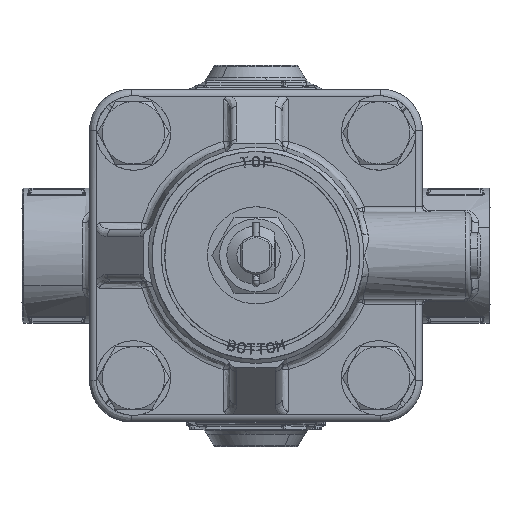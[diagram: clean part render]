
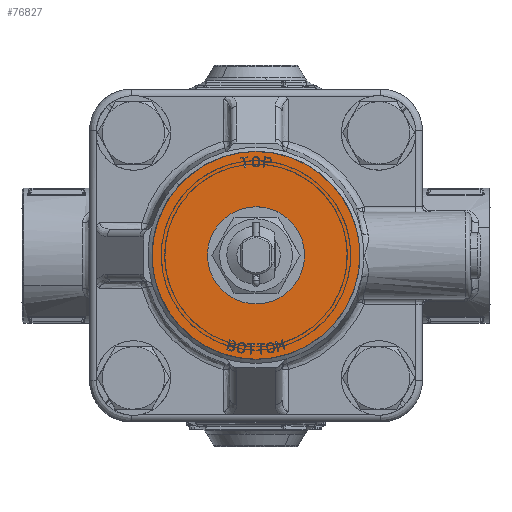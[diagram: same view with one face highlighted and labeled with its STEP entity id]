
A CAD part, top view. The second image highlights one B-rep face of the part: STEP entity #76827.
In plain terms, the highlighted free-form (B-spline) face has degree [1, 1] with [2, 2] control points.
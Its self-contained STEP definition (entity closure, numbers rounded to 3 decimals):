
#76508=CARTESIAN_POINT('',(-20.268,22.118,28.2));
#76509=VERTEX_POINT('',#76508);
#76515=CARTESIAN_POINT('',(0.,30.,28.2));
#76516=VERTEX_POINT('',#76515);
#76517=CARTESIAN_POINT('',(0.,30.,28.2));
#76518=CARTESIAN_POINT('',(-2.086,30.,28.2));
#76519=CARTESIAN_POINT('',(-5.679,29.624,28.2));
#76520=CARTESIAN_POINT('',(-10.812,28.126,28.2));
#76521=CARTESIAN_POINT('',(-15.639,25.816,28.2));
#76522=CARTESIAN_POINT('',(-18.73,23.528,28.2));
#76523=CARTESIAN_POINT('',(-20.268,22.118,28.2));
#76524=B_SPLINE_CURVE_WITH_KNOTS('',3,(#76517,#76518,#76519,#76520,#76521,#76522,#76523),.UNSPECIFIED.,.F.,.U.,(4,1,1,1,4),(0.,6.259,10.779,15.994,22.253),.UNSPECIFIED.);
#76525=EDGE_CURVE('',#76516,#76509,#76524,.T.);
#76527=CARTESIAN_POINT('',(30.,0.,28.2));
#76528=VERTEX_POINT('',#76527);
#76529=CARTESIAN_POINT('',(30.,0.,28.2));
#76530=CARTESIAN_POINT('',(30.,1.411,28.2));
#76531=CARTESIAN_POINT('',(29.796,4.295,28.2));
#76532=CARTESIAN_POINT('',(28.944,8.202,28.2));
#76533=CARTESIAN_POINT('',(27.64,11.848,28.2));
#76534=CARTESIAN_POINT('',(25.689,15.753,28.2));
#76535=CARTESIAN_POINT('',(23.269,19.101,28.2));
#76536=CARTESIAN_POINT('',(20.115,22.373,28.2));
#76537=CARTESIAN_POINT('',(16.99,24.875,28.2));
#76538=CARTESIAN_POINT('',(12.769,27.283,28.2));
#76539=CARTESIAN_POINT('',(8.795,28.788,28.2));
#76540=CARTESIAN_POINT('',(4.418,29.771,28.2));
#76541=CARTESIAN_POINT('',(1.657,30.,28.2));
#76542=CARTESIAN_POINT('',(0.,30.,28.2));
#76543=B_SPLINE_CURVE_WITH_KNOTS('',3,(#76529,#76530,#76531,#76532,#76533,#76534,#76535,#76536,#76537,#76538,#76539,#76540,#76541,#76542),.UNSPECIFIED.,.F.,.U.,(4,1,1,1,1,1,1,1,1,1,1,4),(0.,4.234,8.652,11.965,15.831,21.721,24.298,29.452,33.686,38.84,42.154,47.124),.UNSPECIFIED.);
#76544=EDGE_CURVE('',#76528,#76516,#76543,.T.);
#76546=CARTESIAN_POINT('',(20.268,-22.118,28.2));
#76547=VERTEX_POINT('',#76546);
#76548=CARTESIAN_POINT('',(20.268,-22.118,28.2));
#76549=CARTESIAN_POINT('',(24.919,-17.856,28.2));
#76550=CARTESIAN_POINT('',(27.459,-12.082,28.2));
#76551=CARTESIAN_POINT('',(30.,-6.308,28.2));
#76552=CARTESIAN_POINT('',(30.,0.,28.2));
#76560=(BOUNDED_CURVE()B_SPLINE_CURVE(2,(#76548,#76549,#76550,#76551,#76552),.UNSPECIFIED.,.F.,.U.)B_SPLINE_CURVE_WITH_KNOTS((3,2,3),(0.,0.5,1.),.UNSPECIFIED.)CURVE()GEOMETRIC_REPRESENTATION_ITEM()RATIONAL_B_SPLINE_CURVE((1.,0.979,1.,0.979,1.))REPRESENTATION_ITEM(''));
#76561=EDGE_CURVE('',#76547,#76528,#76560,.T.);
#76662=CARTESIAN_POINT('',(0.,-30.,28.2));
#76663=VERTEX_POINT('',#76662);
#76664=CARTESIAN_POINT('',(0.,-30.,28.2));
#76665=CARTESIAN_POINT('',(2.086,-30.,28.2));
#76666=CARTESIAN_POINT('',(5.853,-29.605,28.2));
#76667=CARTESIAN_POINT('',(11.366,-27.945,28.2));
#76668=CARTESIAN_POINT('',(16.129,-25.494,28.2));
#76669=CARTESIAN_POINT('',(19.029,-23.254,28.2));
#76670=CARTESIAN_POINT('',(20.268,-22.118,28.2));
#76671=B_SPLINE_CURVE_WITH_KNOTS('',3,(#76664,#76665,#76666,#76667,#76668,#76669,#76670),.UNSPECIFIED.,.F.,.U.,(4,1,1,1,4),(0.,6.259,11.3,17.211,22.253),.UNSPECIFIED.);
#76672=EDGE_CURVE('',#76663,#76547,#76671,.T.);
#76674=CARTESIAN_POINT('',(-30.,0.,28.2));
#76675=VERTEX_POINT('',#76674);
#76676=CARTESIAN_POINT('',(-30.,0.,28.2));
#76677=CARTESIAN_POINT('',(-30.,-12.426,28.2));
#76678=CARTESIAN_POINT('',(-21.213,-21.213,28.2));
#76679=CARTESIAN_POINT('',(-12.426,-30.,28.2));
#76680=CARTESIAN_POINT('',(0.,-30.,28.2));
#76688=(BOUNDED_CURVE()B_SPLINE_CURVE(2,(#76676,#76677,#76678,#76679,#76680),.UNSPECIFIED.,.F.,.U.)B_SPLINE_CURVE_WITH_KNOTS((3,2,3),(0.,0.5,1.),.UNSPECIFIED.)CURVE()GEOMETRIC_REPRESENTATION_ITEM()RATIONAL_B_SPLINE_CURVE((1.,0.924,1.,0.924,1.))REPRESENTATION_ITEM(''));
#76689=EDGE_CURVE('',#76675,#76663,#76688,.T.);
#76691=CARTESIAN_POINT('',(-20.268,22.118,28.2));
#76692=CARTESIAN_POINT('',(-21.844,20.675,28.2));
#76693=CARTESIAN_POINT('',(-24.556,17.595,28.2));
#76694=CARTESIAN_POINT('',(-27.199,12.959,28.2));
#76695=CARTESIAN_POINT('',(-28.659,9.072,28.2));
#76696=CARTESIAN_POINT('',(-29.7,4.987,28.2));
#76697=CARTESIAN_POINT('',(-30.,2.008,28.2));
#76698=CARTESIAN_POINT('',(-30.,0.,28.2));
#76699=B_SPLINE_CURVE_WITH_KNOTS('',3,(#76691,#76692,#76693,#76694,#76695,#76696,#76697,#76698),.UNSPECIFIED.,.F.,.U.,(4,1,1,1,1,4),(0.,6.412,12.241,15.933,18.848,24.871),.UNSPECIFIED.);
#76700=EDGE_CURVE('',#76509,#76675,#76699,.T.);
#76767=CARTESIAN_POINT('',(32.997,-32.997,28.2));
#76768=CARTESIAN_POINT('',(-32.997,-32.997,28.2));
#76769=CARTESIAN_POINT('',(32.997,32.997,28.2));
#76770=CARTESIAN_POINT('',(-32.997,32.997,28.2));
#76771=B_SPLINE_SURFACE_WITH_KNOTS('',1,1,((#76767,#76769),(#76768,#76770)),.UNSPECIFIED.,.F.,.F.,.U.,(2,2),(2,2),(0.,65.994),(0.,65.994),.UNSPECIFIED.);
#76772=ORIENTED_EDGE('',*,*,#76689,.T.);
#76773=ORIENTED_EDGE('',*,*,#76672,.T.);
#76774=ORIENTED_EDGE('',*,*,#76561,.T.);
#76775=ORIENTED_EDGE('',*,*,#76544,.T.);
#76776=ORIENTED_EDGE('',*,*,#76525,.T.);
#76777=ORIENTED_EDGE('',*,*,#76700,.T.);
#76778=EDGE_LOOP('',(#76772,#76773,#76774,#76775,#76776,#76777));
#76779=FACE_OUTER_BOUND('',#76778,.T.);
#76780=CARTESIAN_POINT('',(-4.989,-5.6,28.2));
#76781=VERTEX_POINT('',#76780);
#76782=CARTESIAN_POINT('',(4.989,-5.6,28.2));
#76783=VERTEX_POINT('',#76782);
#76784=CARTESIAN_POINT('',(-4.989,-5.6,28.2));
#76785=CARTESIAN_POINT('',(4.989,-5.6,28.2));
#76786=QUASI_UNIFORM_CURVE('',1,(#76784,#76785),.UNSPECIFIED.,.F.,.U.);
#76787=EDGE_CURVE('',#76781,#76783,#76786,.T.);
#76788=ORIENTED_EDGE('',*,*,#76787,.F.);
#76789=CARTESIAN_POINT('',(0.,7.5,28.2));
#76790=VERTEX_POINT('',#76789);
#76791=CARTESIAN_POINT('',(0.,7.5,28.2));
#76792=CARTESIAN_POINT('',(-0.519,7.5,28.2));
#76793=CARTESIAN_POINT('',(-1.461,7.402,28.2));
#76794=CARTESIAN_POINT('',(-2.775,7.006,28.2));
#76795=CARTESIAN_POINT('',(-4.088,6.353,28.2));
#76796=CARTESIAN_POINT('',(-5.318,5.38,28.2));
#76797=CARTESIAN_POINT('',(-6.414,4.011,28.2));
#76798=CARTESIAN_POINT('',(-7.217,2.342,28.2));
#76799=CARTESIAN_POINT('',(-7.567,0.469,28.2));
#76800=CARTESIAN_POINT('',(-7.448,-1.235,28.2));
#76801=CARTESIAN_POINT('',(-7.085,-2.558,28.2));
#76802=CARTESIAN_POINT('',(-6.398,-4.063,28.2));
#76803=CARTESIAN_POINT('',(-5.623,-5.036,28.2));
#76804=CARTESIAN_POINT('',(-4.989,-5.6,28.2));
#76805=B_SPLINE_CURVE_WITH_KNOTS('',3,(#76791,#76792,#76793,#76794,#76795,#76796,#76797,#76798,#76799,#76800,#76801,#76802,#76803,#76804),.UNSPECIFIED.,.F.,.U.,(4,1,1,1,1,1,1,1,1,1,1,4),(0.,1.556,2.829,4.102,5.94,7.496,9.335,11.456,13.154,14.427,15.558,18.104),.UNSPECIFIED.);
#76806=EDGE_CURVE('',#76790,#76781,#76805,.T.);
#76807=ORIENTED_EDGE('',*,*,#76806,.F.);
#76808=CARTESIAN_POINT('',(4.989,-5.6,28.2));
#76809=CARTESIAN_POINT('',(5.517,-5.13,28.2));
#76810=CARTESIAN_POINT('',(6.254,-4.257,28.2));
#76811=CARTESIAN_POINT('',(6.969,-2.868,28.2));
#76812=CARTESIAN_POINT('',(7.439,-1.379,28.2));
#76813=CARTESIAN_POINT('',(7.571,0.282,28.2));
#76814=CARTESIAN_POINT('',(7.297,1.918,28.2));
#76815=CARTESIAN_POINT('',(6.837,3.161,28.2));
#76816=CARTESIAN_POINT('',(6.162,4.354,28.2));
#76817=CARTESIAN_POINT('',(5.119,5.585,28.2));
#76818=CARTESIAN_POINT('',(3.805,6.527,28.2));
#76819=CARTESIAN_POINT('',(2.074,7.29,28.2));
#76820=CARTESIAN_POINT('',(0.849,7.501,28.2));
#76821=CARTESIAN_POINT('',(0.,7.5,28.2));
#76822=B_SPLINE_CURVE_WITH_KNOTS('',3,(#76808,#76809,#76810,#76811,#76812,#76813,#76814,#76815,#76816,#76817,#76818,#76819,#76820,#76821),.UNSPECIFIED.,.F.,.U.,(4,1,1,1,1,1,1,1,1,1,1,4),(0.,2.121,3.394,4.667,6.789,8.345,9.618,10.749,12.447,14.427,15.558,18.104),.UNSPECIFIED.);
#76823=EDGE_CURVE('',#76783,#76790,#76822,.T.);
#76824=ORIENTED_EDGE('',*,*,#76823,.F.);
#76825=EDGE_LOOP('',(#76788,#76807,#76824));
#76826=FACE_BOUND('',#76825,.T.);
#76827=ADVANCED_FACE('',(#76779,#76826),#76771,.F.);
